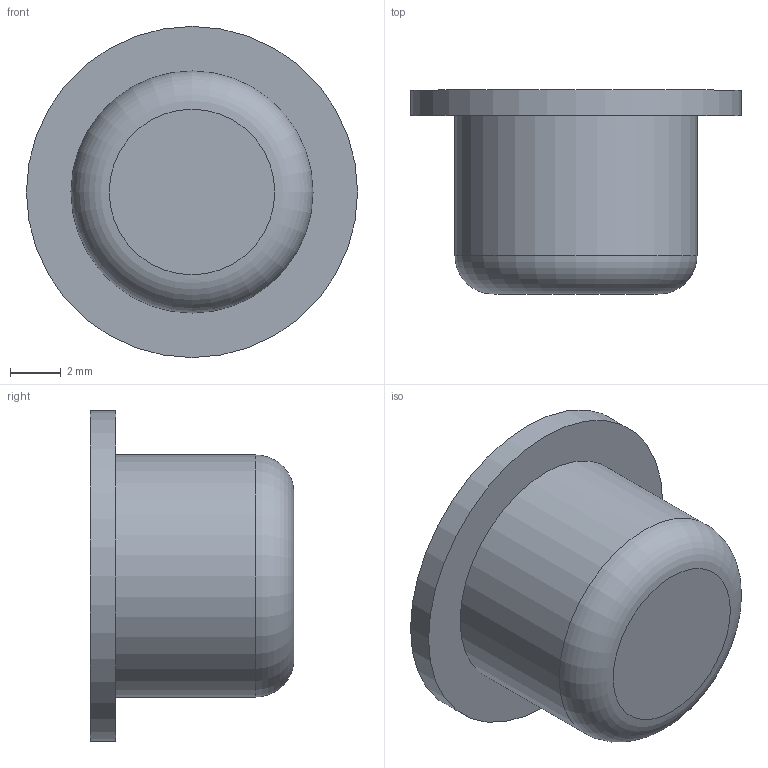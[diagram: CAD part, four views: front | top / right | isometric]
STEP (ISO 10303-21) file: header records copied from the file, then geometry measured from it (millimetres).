
FILE_DESCRIPTION(/* description */ ('STEP AP242','CAx-IF Rec.Pracs.---Representation and Presentation of Product Manufacturing Information (PMI)---4.0---2014-10-13','CAx-IF Rec.Pracs.---3D Tessellated Geometry---0.4---2014-09-14','2;1'),/* implementation_level */ '2;1');
FILE_NAME(/* name */ '6866170eb153ed5436a2d51e',/* time_stamp */ '2025-07-03T05:37:19Z',/* author */ (''),/* organization */ (''),/* preprocessor_version */ 'ST-DEVELOPER v20',/* originating_system */ 'ONSHAPE BY PTC INC, 1.200',/* authorisation */ ' ');
FILE_SCHEMA (('AP242_MANAGED_MODEL_BASED_3D_ENGINEERING_MIM_LF { 1 0 10303 442 1 1 4 }'));
Length unit declared in the file: metre
Products named in the file (1): Part 1
Bounding box: 13 x 8 x 13 mm (x, y, z)
Volume: 572.9 mm3; surface area: 538.7 mm2
Topology: 1 solids, 1 shells, 11 faces, 21 edges, 14 vertices
Faces by surface type: plane 8, cylinder 2, torus 1
Full cylindrical faces by diameter (mm): 9.5 x1, 13 x1
Entity records: 278 total; most frequent: DIRECTION 46, CARTESIAN_POINT 42, ORIENTED_EDGE 34, EDGE_CURVE 17, AXIS2_PLACEMENT_3D 17, EDGE_LOOP 16, FACE_BOUND 16, VERTEX_POINT 13
